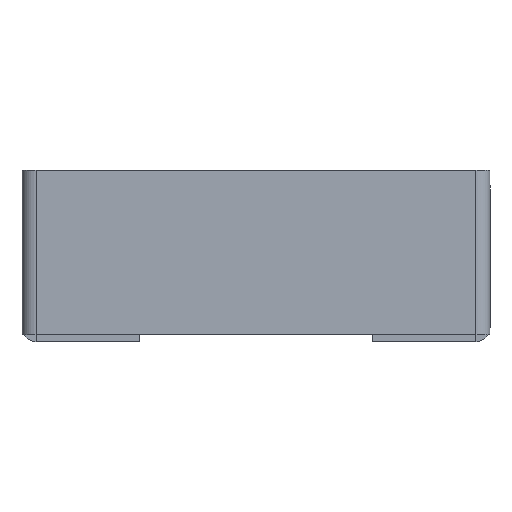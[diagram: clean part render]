
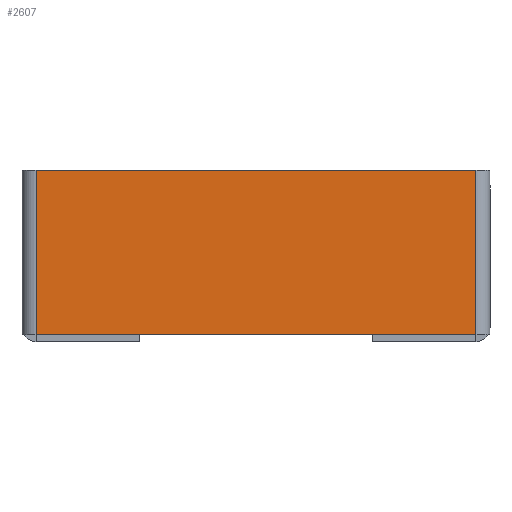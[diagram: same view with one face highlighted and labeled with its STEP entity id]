
A CAD part, front view. The second image highlights one B-rep face of the part: STEP entity #2607.
In plain terms, the highlighted planar face has unit normal (0, -1, 0).
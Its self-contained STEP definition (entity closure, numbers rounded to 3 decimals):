
#57 = EDGE_CURVE ( 'NONE', #6383, #9092, #3143, .T. ) ;
#658 = CARTESIAN_POINT ( 'NONE',  ( -77.5, -2.5, 0. ) ) ;
#1431 = CARTESIAN_POINT ( 'NONE',  ( -77.5, -2.5, 0. ) ) ;
#1644 = CARTESIAN_POINT ( 'NONE',  ( 77.5, -2.5, 0. ) ) ;
#1707 = DIRECTION ( 'NONE',  ( -1., 0., 0. ) ) ;
#2157 = LINE ( 'NONE', #658, #7118 ) ;
#2279 = DIRECTION ( 'NONE',  ( 0., 0., 1. ) ) ;
#2607 = ADVANCED_FACE ( 'NONE', ( #10078 ), #5242, .F. ) ;
#2745 = LINE ( 'NONE', #7026, #3235 ) ;
#2895 = CARTESIAN_POINT ( 'NONE',  ( 77.5, -2.5, -58. ) ) ;
#3143 = LINE ( 'NONE', #5954, #7225 ) ;
#3158 = EDGE_CURVE ( 'NONE', #5821, #8901, #8201, .T. ) ;
#3235 = VECTOR ( 'NONE', #2279, 1000. ) ;
#4402 = ORIENTED_EDGE ( 'NONE', *, *, #6584, .T. ) ;
#4563 = EDGE_CURVE ( 'NONE', #6383, #8901, #2157, .T. ) ;
#4846 = CARTESIAN_POINT ( 'NONE',  ( -80., -2.5, -58. ) ) ;
#5242 = PLANE ( 'NONE',  #6458 ) ;
#5778 = EDGE_LOOP ( 'NONE', ( #9516, #8678, #4402, #5789 ) ) ;
#5789 = ORIENTED_EDGE ( 'NONE', *, *, #57, .F. ) ;
#5821 = VERTEX_POINT ( 'NONE', #2895 ) ;
#5954 = CARTESIAN_POINT ( 'NONE',  ( -80., -2.5, 0. ) ) ;
#6383 = VERTEX_POINT ( 'NONE', #1431 ) ;
#6458 = AXIS2_PLACEMENT_3D ( 'NONE', #10051, #8459, #9325 ) ;
#6584 = EDGE_CURVE ( 'NONE', #5821, #9092, #2745, .T. ) ;
#7026 = CARTESIAN_POINT ( 'NONE',  ( 77.5, -2.5, -58. ) ) ;
#7118 = VECTOR ( 'NONE', #8583, 1000. ) ;
#7225 = VECTOR ( 'NONE', #7807, 1000. ) ;
#7342 = VECTOR ( 'NONE', #1707, 1000. ) ;
#7807 = DIRECTION ( 'NONE',  ( 1., 0., 0. ) ) ;
#8201 = LINE ( 'NONE', #4846, #7342 ) ;
#8459 = DIRECTION ( 'NONE',  ( 0., 1., 0. ) ) ;
#8583 = DIRECTION ( 'NONE',  ( 0., 0., -1. ) ) ;
#8678 = ORIENTED_EDGE ( 'NONE', *, *, #3158, .F. ) ;
#8901 = VERTEX_POINT ( 'NONE', #9431 ) ;
#9092 = VERTEX_POINT ( 'NONE', #1644 ) ;
#9325 = DIRECTION ( 'NONE',  ( 0., 0., 1. ) ) ;
#9431 = CARTESIAN_POINT ( 'NONE',  ( -77.5, -2.5, -58. ) ) ;
#9516 = ORIENTED_EDGE ( 'NONE', *, *, #4563, .T. ) ;
#10051 = CARTESIAN_POINT ( 'NONE',  ( 0., -2.5, 0. ) ) ;
#10078 = FACE_OUTER_BOUND ( 'NONE', #5778, .T. ) ;
